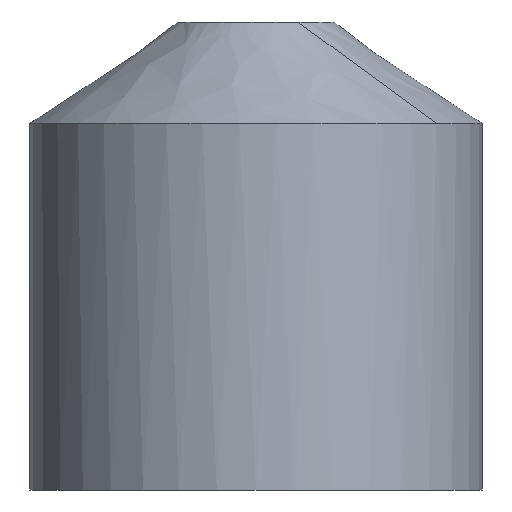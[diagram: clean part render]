
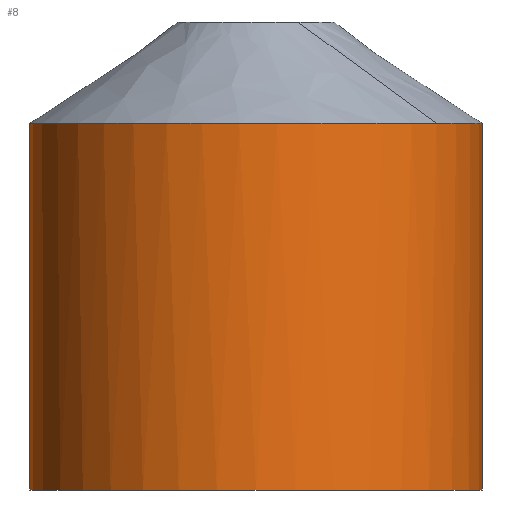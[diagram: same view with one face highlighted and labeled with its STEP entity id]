
A CAD part, front view. The second image highlights one B-rep face of the part: STEP entity #8.
In plain terms, the highlighted cylindrical face has radius 7.25 mm (diameter 14.5 mm), a partial arc.
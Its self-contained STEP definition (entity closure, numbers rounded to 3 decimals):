
#8 = ADVANCED_FACE ( 'NONE', ( #101 ), #304, .T. ) ;
#10 = CARTESIAN_POINT ( 'NONE',  ( 7.25, 0., 11.75 ) ) ;
#16 = DIRECTION ( 'NONE',  ( 0., 0., -1. ) ) ;
#19 = CARTESIAN_POINT ( 'NONE',  ( 7.25, 0., 11.75 ) ) ;
#26 = EDGE_CURVE ( 'NONE', #303, #249, #148, .T. ) ;
#32 = CARTESIAN_POINT ( 'NONE',  ( -7.25, 0., 11.75 ) ) ;
#33 = AXIS2_PLACEMENT_3D ( 'NONE', #134, #99, #115 ) ;
#36 = DIRECTION ( 'NONE',  ( -1., 0., 0. ) ) ;
#41 = DIRECTION ( 'NONE',  ( 0., 0., -1. ) ) ;
#45 = CARTESIAN_POINT ( 'NONE',  ( 0., 0., 11.75 ) ) ;
#47 = CARTESIAN_POINT ( 'NONE',  ( 5.787, -4.368, 11.75 ) ) ;
#60 = CARTESIAN_POINT ( 'NONE',  ( 0., 0., 11.75 ) ) ;
#61 = DIRECTION ( 'NONE',  ( -1., 0., 0. ) ) ;
#63 = DIRECTION ( 'NONE',  ( 0., 0., -1. ) ) ;
#75 = AXIS2_PLACEMENT_3D ( 'NONE', #60, #185, #61 ) ;
#78 = ORIENTED_EDGE ( 'NONE', *, *, #26, .T. ) ;
#90 = VERTEX_POINT ( 'NONE', #10 ) ;
#94 = EDGE_CURVE ( 'NONE', #90, #249, #292, .T. ) ;
#99 = DIRECTION ( 'NONE',  ( 0., 0., -1. ) ) ;
#101 = FACE_OUTER_BOUND ( 'NONE', #265, .T. ) ;
#103 = EDGE_CURVE ( 'NONE', #90, #239, #196, .T. ) ;
#115 = DIRECTION ( 'NONE',  ( -1., 0., 0. ) ) ;
#134 = CARTESIAN_POINT ( 'NONE',  ( 0., 0., 11.75 ) ) ;
#137 = EDGE_CURVE ( 'NONE', #239, #238, #153, .T. ) ;
#138 = CARTESIAN_POINT ( 'NONE',  ( -7.25, 0., 0. ) ) ;
#143 = ORIENTED_EDGE ( 'NONE', *, *, #137, .T. ) ;
#144 = DIRECTION ( 'NONE',  ( 0., 0., 1. ) ) ;
#148 = CIRCLE ( 'NONE', #188, 7.25 ) ;
#153 = CIRCLE ( 'NONE', #75, 7.25 ) ;
#172 = LINE ( 'NONE', #32, #182 ) ;
#175 = VECTOR ( 'NONE', #16, 1000. ) ;
#176 = CARTESIAN_POINT ( 'NONE',  ( 0., 0., 0. ) ) ;
#182 = VECTOR ( 'NONE', #63, 1000. ) ;
#185 = DIRECTION ( 'NONE',  ( 0., 0., -1. ) ) ;
#188 = AXIS2_PLACEMENT_3D ( 'NONE', #176, #144, #232 ) ;
#196 = CIRCLE ( 'NONE', #211, 7.25 ) ;
#211 = AXIS2_PLACEMENT_3D ( 'NONE', #45, #41, #36 ) ;
#232 = DIRECTION ( 'NONE',  ( -1., 0., 0. ) ) ;
#238 = VERTEX_POINT ( 'NONE', #297 ) ;
#239 = VERTEX_POINT ( 'NONE', #47 ) ;
#249 = VERTEX_POINT ( 'NONE', #273 ) ;
#265 = EDGE_LOOP ( 'NONE', ( #275, #280, #143, #282, #78 ) ) ;
#273 = CARTESIAN_POINT ( 'NONE',  ( 7.25, 0., 0. ) ) ;
#275 = ORIENTED_EDGE ( 'NONE', *, *, #94, .F. ) ;
#280 = ORIENTED_EDGE ( 'NONE', *, *, #103, .T. ) ;
#282 = ORIENTED_EDGE ( 'NONE', *, *, #287, .T. ) ;
#287 = EDGE_CURVE ( 'NONE', #238, #303, #172, .T. ) ;
#292 = LINE ( 'NONE', #19, #175 ) ;
#297 = CARTESIAN_POINT ( 'NONE',  ( -7.25, 0., 11.75 ) ) ;
#303 = VERTEX_POINT ( 'NONE', #138 ) ;
#304 = CYLINDRICAL_SURFACE ( 'NONE', #33, 7.25 ) ;
